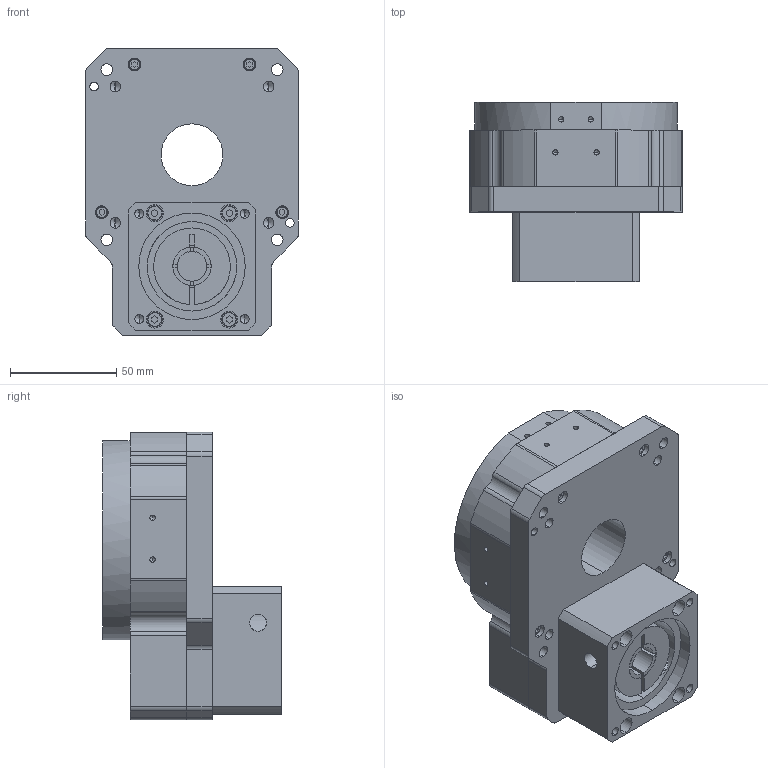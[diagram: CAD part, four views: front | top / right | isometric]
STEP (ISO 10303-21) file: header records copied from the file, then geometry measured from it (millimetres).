
FILE_DESCRIPTION (( 'STEP AP214' ), '1' );
FILE_NAME ('HRP100-8-14-50-70-M5_2019.STEP', '2019-03-12T00:35:57', ( 'Y' ), ( 'NCU' ), 'SwSTEP 2.0', 'SolidWorks 2015', '' );
FILE_SCHEMA (( 'AUTOMOTIVE_DESIGN' ));
Length unit declared in the file: millimetre
Products named in the file (1): HRP100-8-14-50-70-M5_2019
Bounding box: 100 x 84 x 135 mm (x, y, z)
Volume: 581203.5 mm3; surface area: 75100.2 mm2
Topology: 1 solids, 9 shells, 426 faces, 1030 edges, 642 vertices
Faces by surface type: cylinder 203, plane 163, cone 44, torus 16
Entity records: 13874 total; most frequent: DIRECTION 2286, CARTESIAN_POINT 2277, ORIENTED_EDGE 1972, EDGE_CURVE 986, AXIS2_PLACEMENT_3D 881, VERTEX_POINT 642, LINE 524, VECTOR 524
